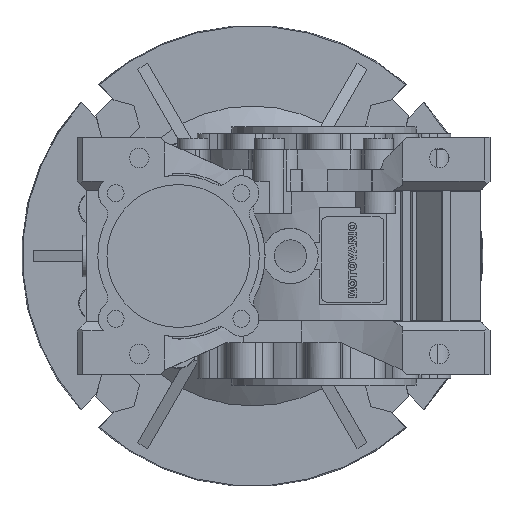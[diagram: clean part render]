
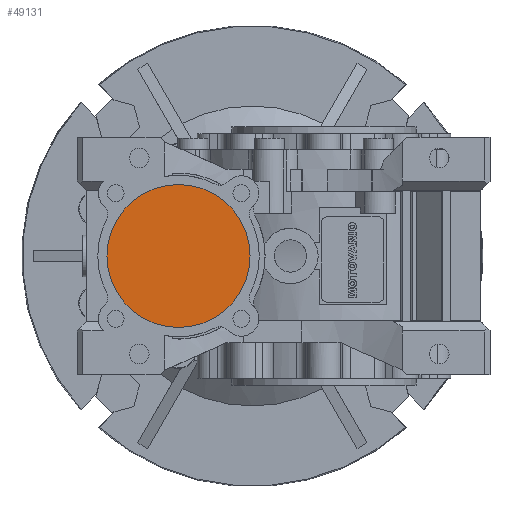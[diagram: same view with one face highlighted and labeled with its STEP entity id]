
A CAD part, left-side view. The second image highlights one B-rep face of the part: STEP entity #49131.
In plain terms, the highlighted planar face has unit normal (-1, 0, 0) as drawn and (0, 0, -1) by its records, which use the part's own axes.
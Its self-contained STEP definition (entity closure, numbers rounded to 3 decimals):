
#762=PLANE('',#52012);
#2239=CIRCLE('',#52011,31.);
#7705=ORIENTED_EDGE('',*,*,#16506,.F.);
#16506=EDGE_CURVE('',#21104,#21104,#2239,.T.);
#21104=VERTEX_POINT('',#70738);
#30043=EDGE_LOOP('',(#7705));
#32387=FACE_BOUND('',#30043,.T.);
#49131=ADVANCED_FACE('',(#32387),#762,.T.);
#52011=AXIS2_PLACEMENT_3D('',#70737,#58801,#58802);
#52012=AXIS2_PLACEMENT_3D('',#70739,#58803,#58804);
#58801=DIRECTION('',(0.,0.,1.));
#58802=DIRECTION('',(1.,0.,0.));
#58803=DIRECTION('',(0.,0.,-1.));
#58804=DIRECTION('',(-1.,0.,0.));
#70737=CARTESIAN_POINT('',(0.,63.,-70.5));
#70738=CARTESIAN_POINT('',(31.,63.,-70.5));
#70739=CARTESIAN_POINT('',(31.,63.,-70.5));
